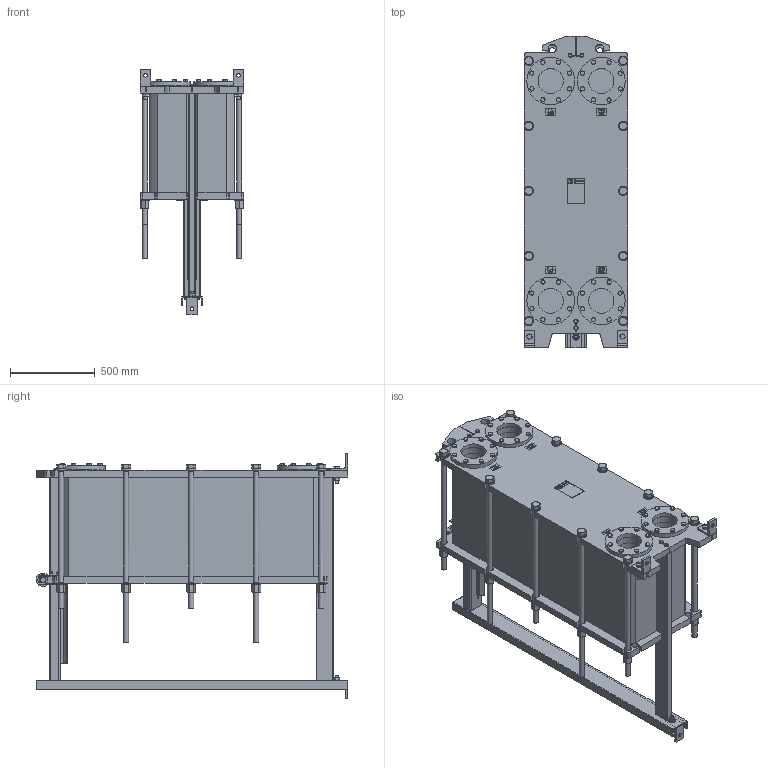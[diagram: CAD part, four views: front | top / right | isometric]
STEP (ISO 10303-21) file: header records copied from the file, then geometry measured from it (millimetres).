
FILE_DESCRIPTION (( 'STEP AP214' ), '1' );
FILE_NAME ('ÏÒ SX150 Óçêèé ðåä 9 íîâûé ðîëèê2+Alfa ñèãìà 101...140.STEP', '2021-04-18T16:10:16', ( '' ), ( '' ), 'SwSTEP 2.0', 'SolidWorks 2018', '' );
FILE_SCHEMA (( 'AUTOMOTIVE_DESIGN' ));
Length unit declared in the file: millimetre
Products named in the file (3): ÏÒ SX150 Óçêèé ðåä 9 íîâûé ðîëèê2+Alfa ñèãìà1; ÏÒ SX150 Óçêèé ðåä 9 íîâûé ðîëèê2+Alfa ñèãìà2 101...140; ÏÒ SX150 Óçêèé ðåä 9 íîâûé ðîëèê2+Alfa ñèãìà 101...140
Assembly tree (2 placements, depth 2):
  ÏÒ SX150 Óçêèé ðåä 9 íîâûé ðîëèê2+Alfa ñèãìà 101...140
    ÏÒ SX150 Óçêèé ðåä 9 íîâûé ðîëèê2+Alfa ñèãìà2 101...140
    ÏÒ SX150 Óçêèé ðåä 9 íîâûé ðîëèê2+Alfa ñèãìà1
Bounding box: 610.97 x 1834 x 1445 mm (x, y, z)
Volume: 500897193.9 mm3; surface area: 13001763.2 mm2
Topology: 54 solids, 65 shells, 3227 faces, 7609 edges, 4816 vertices
Faces by surface type: plane 1543, cone 863, cylinder 497, bspline 275, torus 49
Full cylindrical faces by diameter (mm): 12 x24, 13 x16, 14 x8, 16 x32, 17 x32, 18 x32, 20 x9, 22 x9, 23 x5, 24 x16, 30 x20, 32 x20, 37 x5, 41 x20, 55 x20, 59.5 x1, 60.5 x1, 80 x1, 148 x12, 148.01 x4, 216 x4, 280 x4
Entity records: 132903 total; most frequent: CARTESIAN_POINT 29783, ORIENTED_EDGE 13728, DIRECTION 12884, EDGE_CURVE 6864, AXIS2_PLACEMENT_3D 4851, VERTEX_POINT 4660, EDGE_LOOP 4286, FACE_OUTER_BOUND 3571
